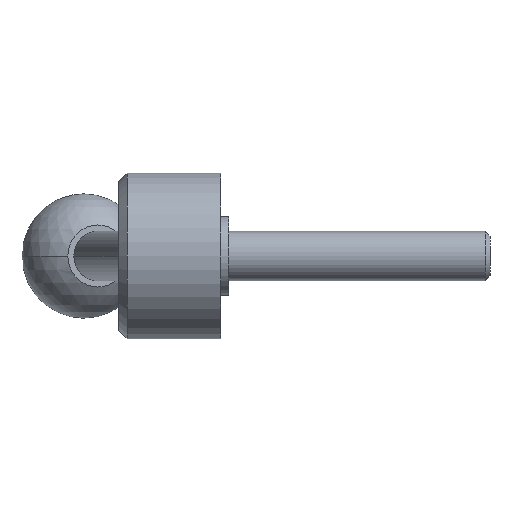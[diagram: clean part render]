
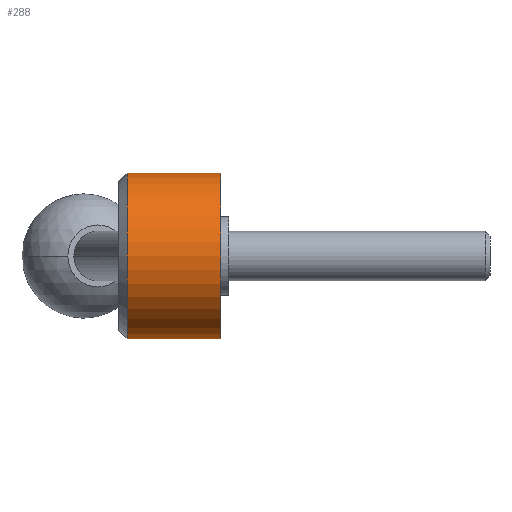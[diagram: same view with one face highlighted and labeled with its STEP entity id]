
A CAD part, left-side view. The second image highlights one B-rep face of the part: STEP entity #288.
In plain terms, the highlighted cylindrical face has radius 20 mm (diameter 40 mm), a partial arc.
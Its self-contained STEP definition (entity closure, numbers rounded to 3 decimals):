
#33 = CARTESIAN_POINT ( 'NONE',  ( 0., 0., -20. ) ) ;
#58 = AXIS2_PLACEMENT_3D ( 'NONE', #137, #546, #883 ) ;
#94 = EDGE_CURVE ( 'NONE', #121, #432, #164, .T. ) ;
#121 = VERTEX_POINT ( 'NONE', #491 ) ;
#137 = CARTESIAN_POINT ( 'NONE',  ( 0., 0., 0. ) ) ;
#140 = DIRECTION ( 'NONE',  ( 0., -1., 0. ) ) ;
#164 = CIRCLE ( 'NONE', #581, 20. ) ;
#178 = LINE ( 'NONE', #33, #661 ) ;
#185 = CARTESIAN_POINT ( 'NONE',  ( 0., 22.6, 0. ) ) ;
#206 = CARTESIAN_POINT ( 'NONE',  ( 0., 0., -20. ) ) ;
#226 = CIRCLE ( 'NONE', #841, 20. ) ;
#272 = VECTOR ( 'NONE', #140, 1000. ) ;
#281 = ORIENTED_EDGE ( 'NONE', *, *, #676, .F. ) ;
#288 = ADVANCED_FACE ( 'NONE', ( #812 ), #609, .T. ) ;
#299 = VERTEX_POINT ( 'NONE', #206 ) ;
#302 = EDGE_CURVE ( 'NONE', #121, #865, #468, .T. ) ;
#375 = DIRECTION ( 'NONE',  ( 0., -1., 0. ) ) ;
#425 = CARTESIAN_POINT ( 'NONE',  ( 0., 0., 0. ) ) ;
#432 = VERTEX_POINT ( 'NONE', #732 ) ;
#451 = EDGE_CURVE ( 'NONE', #432, #299, #178, .T. ) ;
#468 = LINE ( 'NONE', #748, #272 ) ;
#471 = ORIENTED_EDGE ( 'NONE', *, *, #94, .T. ) ;
#491 = CARTESIAN_POINT ( 'NONE',  ( 0., 22.6, 20. ) ) ;
#502 = ORIENTED_EDGE ( 'NONE', *, *, #302, .F. ) ;
#509 = DIRECTION ( 'NONE',  ( 0., -1., 0. ) ) ;
#546 = DIRECTION ( 'NONE',  ( 0., -1., 0. ) ) ;
#550 = DIRECTION ( 'NONE',  ( 0., 0., -1. ) ) ;
#581 = AXIS2_PLACEMENT_3D ( 'NONE', #185, #509, #735 ) ;
#604 = EDGE_LOOP ( 'NONE', ( #502, #471, #680, #281 ) ) ;
#609 = CYLINDRICAL_SURFACE ( 'NONE', #58, 20. ) ;
#661 = VECTOR ( 'NONE', #375, 1000. ) ;
#676 = EDGE_CURVE ( 'NONE', #865, #299, #226, .T. ) ;
#680 = ORIENTED_EDGE ( 'NONE', *, *, #451, .T. ) ;
#732 = CARTESIAN_POINT ( 'NONE',  ( 0., 22.6, -20. ) ) ;
#735 = DIRECTION ( 'NONE',  ( 0., 0., 1. ) ) ;
#748 = CARTESIAN_POINT ( 'NONE',  ( 0., 0., 20. ) ) ;
#757 = DIRECTION ( 'NONE',  ( 0., -1., 0. ) ) ;
#812 = FACE_OUTER_BOUND ( 'NONE', #604, .T. ) ;
#841 = AXIS2_PLACEMENT_3D ( 'NONE', #425, #757, #550 ) ;
#865 = VERTEX_POINT ( 'NONE', #876 ) ;
#876 = CARTESIAN_POINT ( 'NONE',  ( 0., 0., 20. ) ) ;
#883 = DIRECTION ( 'NONE',  ( 0., 0., -1. ) ) ;
